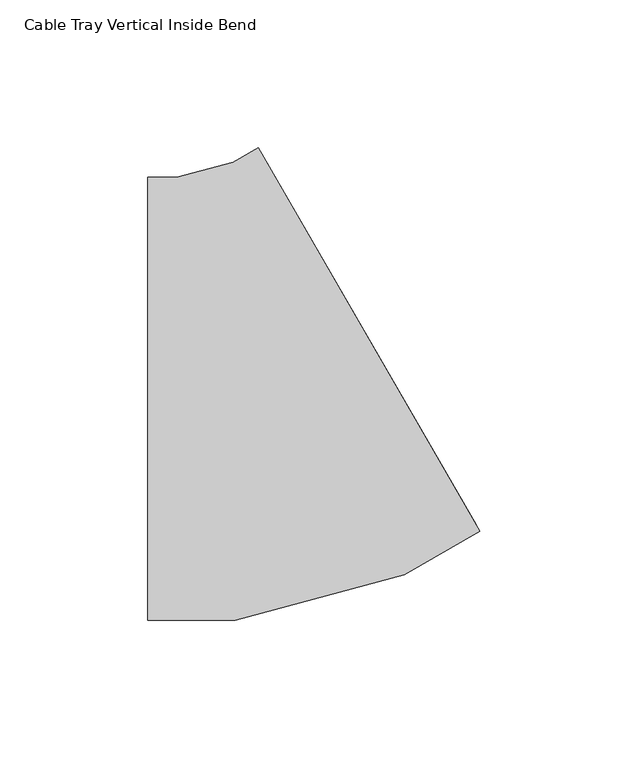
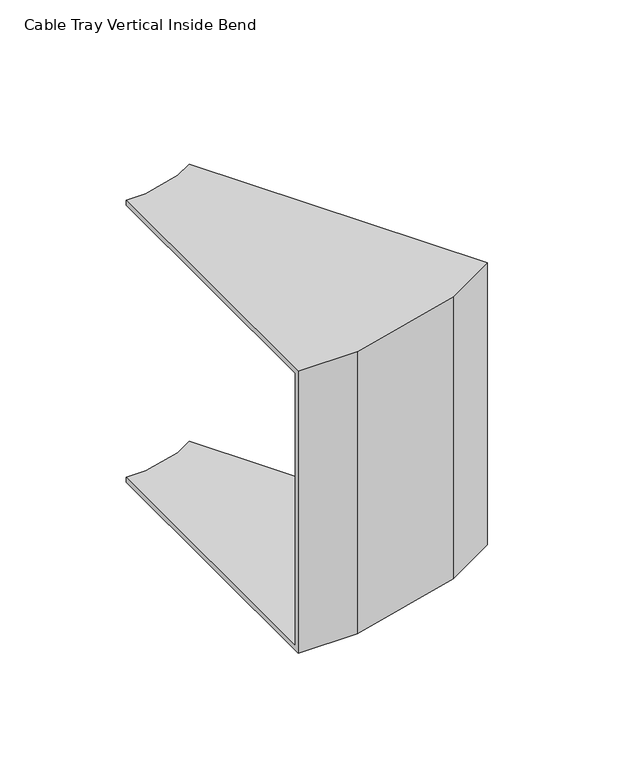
"""IFC4 building model written with IfcOpenShell, lengths in millimetres: cable carrier fitting geometry, Cable Tray Vertical Inside Bend : ELEC_ELV_TKG_N2402."""

from ifc_helpers import new_model, si_unit, origin, place, context, project, spatial, faceted_brep, source, transform, mapped, element, save


def cable_tray_vertical_inside_bend_7bb7661d(model_context):
    return source(origin(), model_context, "Body", "Brep", [
        faceted_brep([(-40.1923546, 75.0, 75.0), (-40.1923546, 75.0, 72.46), (-40.1923546, -72.46, 72.46), (-40.1923546, -72.46, -72.46), (-40.1923546, 75.0, -72.46), (-40.1923546, 75.0, -75.0), (-40.1923546, -75.0, -75.0), (-40.1923546, -75.0, 75.0), (-2.6923742, 85.0480834, 75.0), (72.3075866, -44.8557498, 75.0), (72.3075866, -44.8557498, -75.0), (-2.6923742, 85.0480834, -75.0), (-2.6923742, 85.0480834, -72.46), (71.0375873, -42.6560449, -72.46), (71.0375873, -42.6560449, 72.46), (-2.6923742, 85.0480834, 72.46), (-30.318423, 75.0, 75.0), (-30.318423, 75.0, 72.46), (-11.2434513, 80.1111202, 72.46), (45.6739526, -57.299736, 72.46), (-10.9049571, -72.46, 72.46), (-10.9049571, -72.46, -72.46), (45.6739526, -57.299736, -72.46), (-11.2434513, 80.1111202, -72.46), (-30.318423, 75.0, -72.46), (-30.318423, 75.0, -75.0), (-11.2434513, 80.1111202, -75.0), (46.6543554, -59.6666394, -75.0), (-10.5705599, -75.0, -75.0), (-10.5705599, -75.0, 75.0), (46.6543554, -59.6666394, 75.0), (-11.2434513, 80.1111202, 75.0)], [[[0, 1, 2, 3, 4, 5, 6, 7]], [[8, 9, 10, 11, 12, 13, 14, 15]], [[1, 0, 16, 17]], [[2, 1, 17, 18, 15, 14, 19, 20]], [[3, 2, 20, 21]], [[4, 3, 21, 22, 13, 12, 23, 24]], [[5, 4, 24, 25]], [[6, 5, 25, 26, 11, 10, 27, 28]], [[7, 6, 28, 29]], [[0, 7, 29, 30, 9, 8, 31, 16]], [[17, 16, 31, 18]], [[21, 20, 19, 22]], [[25, 24, 23, 26]], [[29, 28, 27, 30]], [[18, 31, 8, 15]], [[22, 19, 14, 13]], [[26, 23, 12, 11]], [[30, 27, 10, 9]]]),
    ])


if __name__ == "__main__":
    model = new_model("IFC4")
    model_context = context("Model", 3, world=origin())
    ifc_project = project(units=[si_unit("LENGTHUNIT", "METRE", prefix="MILLI")], contexts=[model_context])
    site = spatial("IfcSite", under=ifc_project)
    building = spatial("IfcBuilding", under=site)
    placement = place(None, origin())
    cable_tray_vertical_inside_bend_shape = cable_tray_vertical_inside_bend_7bb7661d(model_context)
    element("IfcCableCarrierFitting", 1, ObjectType="Cable Tray Vertical Inside Bend : ELEC_ELV_TKG_N2402", at=placement, inside=building, context=model_context, shape_type="MappedRepresentation", body=[
        mapped(cable_tray_vertical_inside_bend_shape, transform((0.0, 0.0, 0.0), x_axis=(1.0, 0.0, 0.0), y_axis=(0.0, 1.0, 0.0), z_axis=(0.0, 0.0, 1.0))),
    ])
    save(model, "model.ifc")
